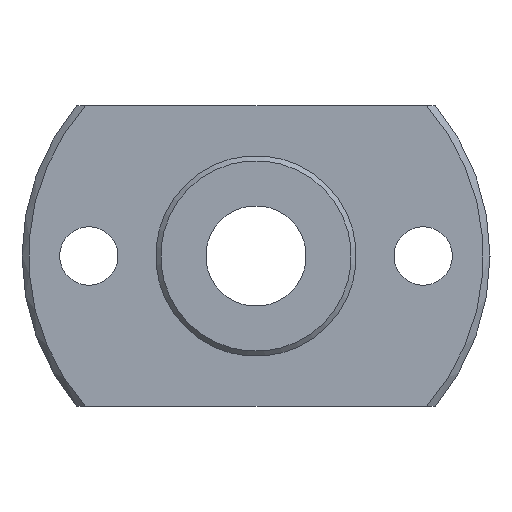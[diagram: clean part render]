
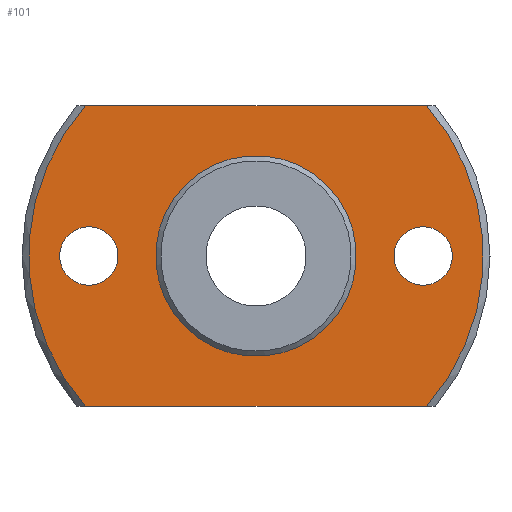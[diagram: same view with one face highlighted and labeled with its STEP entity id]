
A CAD part, left-side view. The second image highlights one B-rep face of the part: STEP entity #101.
In plain terms, the highlighted planar face has unit normal (-1, 0, 0).
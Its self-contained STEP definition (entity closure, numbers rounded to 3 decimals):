
#101=ADVANCED_FACE('',(#175,#176,#177,#178),#179,.T.);
#175=FACE_BOUND('',#252,.T.);
#176=FACE_BOUND('',#253,.T.);
#177=FACE_BOUND('',#254,.T.);
#178=FACE_OUTER_BOUND('',#255,.T.);
#179=PLANE('',#256);
#252=EDGE_LOOP('',(#416));
#253=EDGE_LOOP('',(#417));
#254=EDGE_LOOP('',(#418));
#255=EDGE_LOOP('',(#419,#420,#421,#422));
#256=AXIS2_PLACEMENT_3D('',#423,#424,#425);
#416=ORIENTED_EDGE('',*,*,#450,.T.);
#417=ORIENTED_EDGE('',*,*,#469,.T.);
#418=ORIENTED_EDGE('',*,*,#468,.T.);
#419=ORIENTED_EDGE('',*,*,#460,.F.);
#420=ORIENTED_EDGE('',*,*,#444,.T.);
#421=ORIENTED_EDGE('',*,*,#457,.F.);
#422=ORIENTED_EDGE('',*,*,#431,.T.);
#423=CARTESIAN_POINT('',(-5.0,6.841,6.841));
#424=DIRECTION('',(-1.0,0.0,0.));
#425=DIRECTION('',(0.,-0.707,0.707));
#431=EDGE_CURVE('',#481,#479,#482,.T.);
#444=EDGE_CURVE('',#505,#503,#506,.T.);
#450=EDGE_CURVE('',#516,#516,#517,.T.);
#457=EDGE_CURVE('',#481,#503,#526,.T.);
#460=EDGE_CURVE('',#505,#479,#531,.T.);
#468=EDGE_CURVE('',#546,#546,#547,.F.);
#469=EDGE_CURVE('',#548,#548,#549,.F.);
#479=VERTEX_POINT('',#567);
#481=VERTEX_POINT('',#572);
#482=LINE('',#573,#574);
#503=VERTEX_POINT('',#607);
#505=VERTEX_POINT('',#612);
#506=LINE('',#613,#614);
#516=VERTEX_POINT('',#628);
#517=CIRCLE('',#629,5.75);
#526=CIRCLE('',#638,13.6);
#531=CIRCLE('',#643,13.6);
#546=VERTEX_POINT('',#658);
#547=CIRCLE('',#659,1.75);
#548=VERTEX_POINT('',#660);
#549=CIRCLE('',#661,1.75);
#567=CARTESIAN_POINT('',(-5.0,10.196,9.0));
#572=CARTESIAN_POINT('',(-5.0,-10.196,9.0));
#573=CARTESIAN_POINT('',(-5.0,6.841,9.0));
#574=VECTOR('',#664,1.0);
#607=CARTESIAN_POINT('',(-5.0,-10.196,-9.0));
#612=CARTESIAN_POINT('',(-5.0,10.196,-9.0));
#613=CARTESIAN_POINT('',(-5.0,6.841,-9.0));
#614=VECTOR('',#683,1.0);
#628=CARTESIAN_POINT('',(-5.0,4.066,4.066));
#629=AXIS2_PLACEMENT_3D('',#694,#695,#696);
#638=AXIS2_PLACEMENT_3D('',#715,#716,#717);
#643=AXIS2_PLACEMENT_3D('',#724,#725,#726);
#658=CARTESIAN_POINT('',(-5.0,8.763,1.237));
#659=AXIS2_PLACEMENT_3D('',#748,#749,#750);
#660=CARTESIAN_POINT('',(-5.0,-11.237,1.237));
#661=AXIS2_PLACEMENT_3D('',#751,#752,#753);
#664=DIRECTION('',(0.0,1.0,0.0));
#683=DIRECTION('',(0.0,-1.0,0.0));
#694=CARTESIAN_POINT('',(-5.0,0.,0.));
#695=DIRECTION('',(1.0,0.0,0.));
#696=DIRECTION('',(0.,0.707,0.707));
#715=CARTESIAN_POINT('',(-5.0,0.,0.));
#716=DIRECTION('',(1.0,0.0,0.));
#717=DIRECTION('',(0.,0.707,0.707));
#724=CARTESIAN_POINT('',(-5.0,0.,0.));
#725=DIRECTION('',(1.0,0.0,0.));
#726=DIRECTION('',(0.,0.707,0.707));
#748=CARTESIAN_POINT('',(-5.0,10.0,0.));
#749=DIRECTION('',(-1.0,0.0,0.));
#750=DIRECTION('',(0.,-0.707,0.707));
#751=CARTESIAN_POINT('',(-5.0,-10.0,0.));
#752=DIRECTION('',(-1.0,0.0,0.));
#753=DIRECTION('',(0.,-0.707,0.707));
